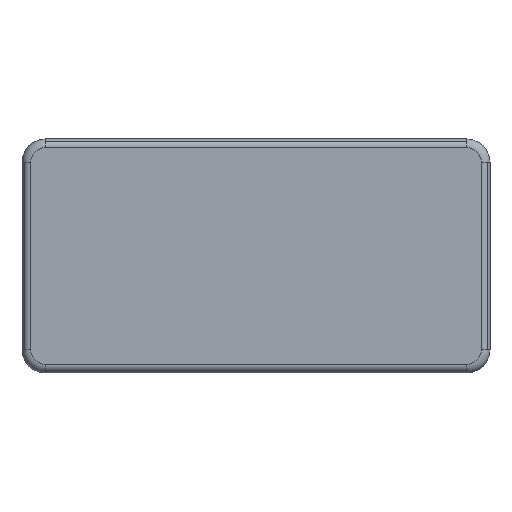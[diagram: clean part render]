
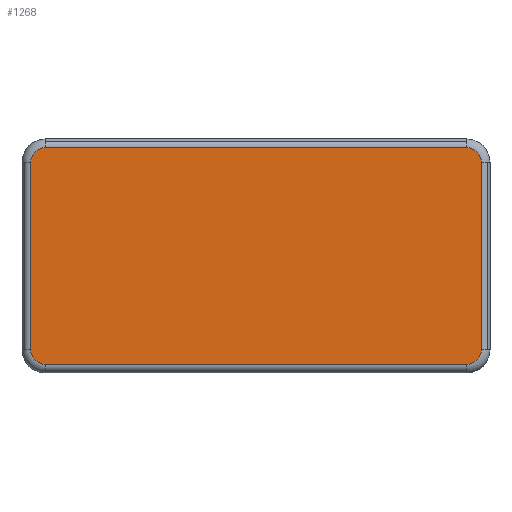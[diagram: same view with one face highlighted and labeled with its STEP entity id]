
A CAD part, front view. The second image highlights one B-rep face of the part: STEP entity #1268.
In plain terms, the highlighted planar face has unit normal (0, -1, 0).
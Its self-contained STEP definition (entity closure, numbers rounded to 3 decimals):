
#1268=ADVANCED_FACE('',(#3436),#3437,.F.);
#3436=FACE_OUTER_BOUND('',#5655,.T.);
#3437=PLANE('',#5656);
#5655=EDGE_LOOP('',(#15032,#15033,#15034,#15035,#15036,#15037,#15038,#15039));
#5656=AXIS2_PLACEMENT_3D('',#15040,#15041,#15042);
#15032=ORIENTED_EDGE('',*,*,#18509,.F.);
#15033=ORIENTED_EDGE('',*,*,#18515,.F.);
#15034=ORIENTED_EDGE('',*,*,#18505,.F.);
#15035=ORIENTED_EDGE('',*,*,#18520,.F.);
#15036=ORIENTED_EDGE('',*,*,#18497,.F.);
#15037=ORIENTED_EDGE('',*,*,#18529,.F.);
#15038=ORIENTED_EDGE('',*,*,#18501,.F.);
#15039=ORIENTED_EDGE('',*,*,#18524,.F.);
#15040=CARTESIAN_POINT('',(0.,-4.5,0.));
#15041=DIRECTION('',(0.0,1.0,0.0));
#15042=DIRECTION('',(0.0,0.0,1.0));
#18497=EDGE_CURVE('',#23711,#23713,#23714,.T.);
#18501=EDGE_CURVE('',#23719,#23721,#23722,.T.);
#18505=EDGE_CURVE('',#23727,#23729,#23730,.T.);
#18509=EDGE_CURVE('',#23735,#23737,#23738,.T.);
#18515=EDGE_CURVE('',#23729,#23735,#23745,.T.);
#18520=EDGE_CURVE('',#23713,#23727,#23751,.T.);
#18524=EDGE_CURVE('',#23737,#23719,#23756,.T.);
#18529=EDGE_CURVE('',#23721,#23711,#23762,.T.);
#23711=VERTEX_POINT('',#32008);
#23713=VERTEX_POINT('',#32010);
#23714=LINE('',#32011,#32012);
#23719=VERTEX_POINT('',#32018);
#23721=VERTEX_POINT('',#32020);
#23722=LINE('',#32021,#32022);
#23727=VERTEX_POINT('',#32028);
#23729=VERTEX_POINT('',#32030);
#23730=LINE('',#32031,#32032);
#23735=VERTEX_POINT('',#32038);
#23737=VERTEX_POINT('',#32040);
#23738=LINE('',#32041,#32042);
#23745=CIRCLE('',#32050,0.1);
#23751=CIRCLE('',#32057,0.1);
#23756=CIRCLE('',#32062,0.1);
#23762=CIRCLE('',#32069,0.1);
#32008=CARTESIAN_POINT('',(-1.44,-4.5,0.74));
#32010=CARTESIAN_POINT('',(1.44,-4.5,0.74));
#32011=CARTESIAN_POINT('',(-0.72,-4.5,0.74));
#32012=VECTOR('',#35396,1.0);
#32018=CARTESIAN_POINT('',(-1.54,-4.5,-0.64));
#32020=CARTESIAN_POINT('',(-1.54,-4.5,0.64));
#32021=CARTESIAN_POINT('',(-1.54,-4.5,-0.32));
#32022=VECTOR('',#35404,1.0);
#32028=CARTESIAN_POINT('',(1.54,-4.5,0.64));
#32030=CARTESIAN_POINT('',(1.54,-4.5,-0.64));
#32031=CARTESIAN_POINT('',(1.54,-4.5,0.32));
#32032=VECTOR('',#35412,1.0);
#32038=CARTESIAN_POINT('',(1.44,-4.5,-0.74));
#32040=CARTESIAN_POINT('',(-1.44,-4.5,-0.74));
#32041=CARTESIAN_POINT('',(0.72,-4.5,-0.74));
#32042=VECTOR('',#35420,1.0);
#32050=AXIS2_PLACEMENT_3D('',#35434,#35435,#35436);
#32057=AXIS2_PLACEMENT_3D('',#35447,#35448,#35449);
#32062=AXIS2_PLACEMENT_3D('',#35459,#35460,#35461);
#32069=AXIS2_PLACEMENT_3D('',#35472,#35473,#35474);
#35396=DIRECTION('',(1.0,0.0,0.0));
#35404=DIRECTION('',(0.0,0.0,1.0));
#35412=DIRECTION('',(0.0,0.0,-1.0));
#35420=DIRECTION('',(-1.0,0.0,0.0));
#35434=CARTESIAN_POINT('',(1.44,-4.5,-0.64));
#35435=DIRECTION('',(0.0,1.0,0.0));
#35436=DIRECTION('',(0.707,0.0,-0.707));
#35447=CARTESIAN_POINT('',(1.44,-4.5,0.64));
#35448=DIRECTION('',(-0.0,1.0,0.0));
#35449=DIRECTION('',(0.707,0.0,0.707));
#35459=CARTESIAN_POINT('',(-1.44,-4.5,-0.64));
#35460=DIRECTION('',(0.0,1.0,0.0));
#35461=DIRECTION('',(-0.707,0.0,-0.707));
#35472=CARTESIAN_POINT('',(-1.44,-4.5,0.64));
#35473=DIRECTION('',(0.0,1.0,0.0));
#35474=DIRECTION('',(-0.707,0.0,0.707));
